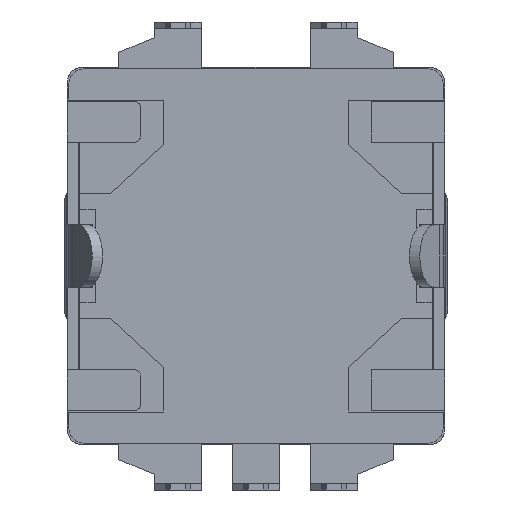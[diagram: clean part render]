
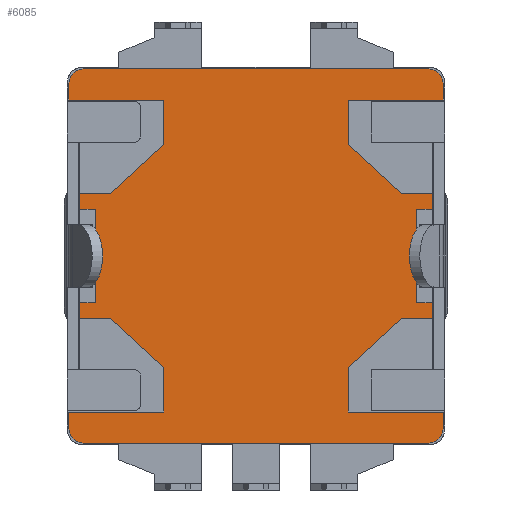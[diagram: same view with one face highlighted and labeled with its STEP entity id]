
A CAD part, front view. The second image highlights one B-rep face of the part: STEP entity #6085.
In plain terms, the highlighted planar face has unit normal (0, -1, 0).
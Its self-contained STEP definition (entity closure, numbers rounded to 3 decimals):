
#221=CIRCLE('',#6474,0.5);
#222=CIRCLE('',#6475,0.5);
#223=CIRCLE('',#6476,0.5);
#224=CIRCLE('',#6477,0.5);
#404=FACE_OUTER_BOUND('',#716,.T.);
#716=EDGE_LOOP('',(#4664,#4665,#4666,#4667,#4668,#4669,#4670,#4671,#4672,
#4673,#4674,#4675,#4676,#4677,#4678,#4679,#4680,#4681,#4682,#4683,#4684,
#4685,#4686,#4687,#4688,#4689,#4690,#4691,#4692,#4693,#4694,#4695,#4696,
#4697,#4698,#4699));
#1156=LINE('',#9630,#1872);
#1164=LINE('',#9646,#1880);
#1198=LINE('',#9714,#1914);
#1200=LINE('',#9719,#1916);
#1206=LINE('',#9732,#1922);
#1209=LINE('',#9737,#1925);
#1216=LINE('',#9750,#1932);
#1374=LINE('',#10100,#2090);
#1380=LINE('',#10110,#2096);
#1407=LINE('',#10164,#2123);
#1408=LINE('',#10168,#2124);
#1409=LINE('',#10170,#2125);
#1410=LINE('',#10172,#2126);
#1411=LINE('',#10174,#2127);
#1412=LINE('',#10175,#2128);
#1413=LINE('',#10177,#2129);
#1414=LINE('',#10179,#2130);
#1415=LINE('',#10180,#2131);
#1416=LINE('',#10182,#2132);
#1417=LINE('',#10184,#2133);
#1418=LINE('',#10185,#2134);
#1419=LINE('',#10189,#2135);
#1420=LINE('',#10191,#2136);
#1421=LINE('',#10192,#2137);
#1422=LINE('',#10194,#2138);
#1423=LINE('',#10196,#2139);
#1424=LINE('',#10197,#2140);
#1425=LINE('',#10199,#2141);
#1426=LINE('',#10201,#2142);
#1427=LINE('',#10203,#2143);
#1428=LINE('',#10205,#2144);
#1429=LINE('',#10207,#2145);
#1872=VECTOR('',#7233,1000.);
#1880=VECTOR('',#7241,1000.);
#1914=VECTOR('',#7293,1000.);
#1916=VECTOR('',#7297,1000.);
#1922=VECTOR('',#7305,1000.);
#1925=VECTOR('',#7310,1000.);
#1932=VECTOR('',#7319,1000.);
#2090=VECTOR('',#7569,1000.);
#2096=VECTOR('',#7575,1000.);
#2123=VECTOR('',#7616,1000.);
#2124=VECTOR('',#7619,1000.);
#2125=VECTOR('',#7620,1000.);
#2126=VECTOR('',#7621,1000.);
#2127=VECTOR('',#7622,1000.);
#2128=VECTOR('',#7623,1000.);
#2129=VECTOR('',#7624,1000.);
#2130=VECTOR('',#7625,1000.);
#2131=VECTOR('',#7626,1000.);
#2132=VECTOR('',#7627,1000.);
#2133=VECTOR('',#7628,1000.);
#2134=VECTOR('',#7629,1000.);
#2135=VECTOR('',#7634,1000.);
#2136=VECTOR('',#7635,1000.);
#2137=VECTOR('',#7636,1000.);
#2138=VECTOR('',#7637,1000.);
#2139=VECTOR('',#7638,1000.);
#2140=VECTOR('',#7639,1000.);
#2141=VECTOR('',#7640,1000.);
#2142=VECTOR('',#7641,1000.);
#2143=VECTOR('',#7642,1000.);
#2144=VECTOR('',#7643,1000.);
#2145=VECTOR('',#7644,1000.);
#2565=VERTEX_POINT('',#9627);
#2566=VERTEX_POINT('',#9629);
#2573=VERTEX_POINT('',#9643);
#2574=VERTEX_POINT('',#9645);
#2598=VERTEX_POINT('',#9711);
#2599=VERTEX_POINT('',#9713);
#2600=VERTEX_POINT('',#9717);
#2601=VERTEX_POINT('',#9718);
#2606=VERTEX_POINT('',#9729);
#2607=VERTEX_POINT('',#9731);
#2608=VERTEX_POINT('',#9736);
#2613=VERTEX_POINT('',#9748);
#2758=VERTEX_POINT('',#10097);
#2759=VERTEX_POINT('',#10099);
#2762=VERTEX_POINT('',#10107);
#2763=VERTEX_POINT('',#10109);
#2782=VERTEX_POINT('',#10162);
#2783=VERTEX_POINT('',#10163);
#2784=VERTEX_POINT('',#10165);
#2785=VERTEX_POINT('',#10167);
#2786=VERTEX_POINT('',#10169);
#2787=VERTEX_POINT('',#10171);
#2788=VERTEX_POINT('',#10173);
#2789=VERTEX_POINT('',#10176);
#2790=VERTEX_POINT('',#10178);
#2791=VERTEX_POINT('',#10181);
#2792=VERTEX_POINT('',#10183);
#2793=VERTEX_POINT('',#10188);
#2794=VERTEX_POINT('',#10190);
#2795=VERTEX_POINT('',#10193);
#2796=VERTEX_POINT('',#10195);
#2797=VERTEX_POINT('',#10198);
#2798=VERTEX_POINT('',#10200);
#2799=VERTEX_POINT('',#10202);
#2800=VERTEX_POINT('',#10204);
#2801=VERTEX_POINT('',#10206);
#3219=EDGE_CURVE('',#2565,#2566,#1156,.T.);
#3227=EDGE_CURVE('',#2573,#2574,#1164,.T.);
#3261=EDGE_CURVE('',#2598,#2599,#1198,.T.);
#3263=EDGE_CURVE('',#2600,#2601,#1200,.T.);
#3269=EDGE_CURVE('',#2606,#2607,#1206,.T.);
#3272=EDGE_CURVE('',#2608,#2599,#1209,.T.);
#3279=EDGE_CURVE('',#2613,#2600,#1216,.T.);
#3460=EDGE_CURVE('',#2759,#2758,#1374,.T.);
#3466=EDGE_CURVE('',#2763,#2762,#1380,.T.);
#3495=EDGE_CURVE('',#2782,#2783,#1407,.T.);
#3496=EDGE_CURVE('',#2782,#2784,#221,.T.);
#3497=EDGE_CURVE('',#2785,#2784,#1408,.T.);
#3498=EDGE_CURVE('',#2786,#2785,#1409,.T.);
#3499=EDGE_CURVE('',#2786,#2787,#1410,.T.);
#3500=EDGE_CURVE('',#2787,#2788,#1411,.T.);
#3501=EDGE_CURVE('',#2788,#2574,#1412,.T.);
#3502=EDGE_CURVE('',#2573,#2789,#1413,.T.);
#3503=EDGE_CURVE('',#2789,#2790,#1414,.T.);
#3504=EDGE_CURVE('',#2790,#2566,#1415,.T.);
#3505=EDGE_CURVE('',#2791,#2565,#1416,.T.);
#3506=EDGE_CURVE('',#2792,#2791,#1417,.T.);
#3507=EDGE_CURVE('',#2608,#2792,#1418,.T.);
#3508=EDGE_CURVE('',#2598,#2607,#222,.T.);
#3509=EDGE_CURVE('',#2606,#2601,#223,.T.);
#3510=EDGE_CURVE('',#2613,#2793,#1419,.T.);
#3511=EDGE_CURVE('',#2793,#2794,#1420,.T.);
#3512=EDGE_CURVE('',#2794,#2763,#1421,.T.);
#3513=EDGE_CURVE('',#2795,#2762,#1422,.T.);
#3514=EDGE_CURVE('',#2796,#2795,#1423,.T.);
#3515=EDGE_CURVE('',#2759,#2796,#1424,.T.);
#3516=EDGE_CURVE('',#2797,#2758,#1425,.T.);
#3517=EDGE_CURVE('',#2798,#2797,#1426,.T.);
#3518=EDGE_CURVE('',#2799,#2798,#1427,.T.);
#3519=EDGE_CURVE('',#2799,#2800,#1428,.T.);
#3520=EDGE_CURVE('',#2801,#2800,#1429,.T.);
#3521=EDGE_CURVE('',#2801,#2783,#224,.T.);
#4664=ORIENTED_EDGE('',*,*,#3495,.F.);
#4665=ORIENTED_EDGE('',*,*,#3496,.T.);
#4666=ORIENTED_EDGE('',*,*,#3497,.F.);
#4667=ORIENTED_EDGE('',*,*,#3498,.F.);
#4668=ORIENTED_EDGE('',*,*,#3499,.T.);
#4669=ORIENTED_EDGE('',*,*,#3500,.T.);
#4670=ORIENTED_EDGE('',*,*,#3501,.T.);
#4671=ORIENTED_EDGE('',*,*,#3227,.F.);
#4672=ORIENTED_EDGE('',*,*,#3502,.T.);
#4673=ORIENTED_EDGE('',*,*,#3503,.T.);
#4674=ORIENTED_EDGE('',*,*,#3504,.T.);
#4675=ORIENTED_EDGE('',*,*,#3219,.F.);
#4676=ORIENTED_EDGE('',*,*,#3505,.F.);
#4677=ORIENTED_EDGE('',*,*,#3506,.F.);
#4678=ORIENTED_EDGE('',*,*,#3507,.F.);
#4679=ORIENTED_EDGE('',*,*,#3272,.T.);
#4680=ORIENTED_EDGE('',*,*,#3261,.F.);
#4681=ORIENTED_EDGE('',*,*,#3508,.T.);
#4682=ORIENTED_EDGE('',*,*,#3269,.F.);
#4683=ORIENTED_EDGE('',*,*,#3509,.T.);
#4684=ORIENTED_EDGE('',*,*,#3263,.F.);
#4685=ORIENTED_EDGE('',*,*,#3279,.F.);
#4686=ORIENTED_EDGE('',*,*,#3510,.T.);
#4687=ORIENTED_EDGE('',*,*,#3511,.T.);
#4688=ORIENTED_EDGE('',*,*,#3512,.T.);
#4689=ORIENTED_EDGE('',*,*,#3466,.T.);
#4690=ORIENTED_EDGE('',*,*,#3513,.F.);
#4691=ORIENTED_EDGE('',*,*,#3514,.F.);
#4692=ORIENTED_EDGE('',*,*,#3515,.F.);
#4693=ORIENTED_EDGE('',*,*,#3460,.T.);
#4694=ORIENTED_EDGE('',*,*,#3516,.F.);
#4695=ORIENTED_EDGE('',*,*,#3517,.F.);
#4696=ORIENTED_EDGE('',*,*,#3518,.F.);
#4697=ORIENTED_EDGE('',*,*,#3519,.T.);
#4698=ORIENTED_EDGE('',*,*,#3520,.F.);
#4699=ORIENTED_EDGE('',*,*,#3521,.T.);
#5585=PLANE('',#6473);
#6085=ADVANCED_FACE('',(#404),#5585,.F.);
#6473=AXIS2_PLACEMENT_3D('',#10161,#7614,#7615);
#6474=AXIS2_PLACEMENT_3D('',#10166,#7617,#7618);
#6475=AXIS2_PLACEMENT_3D('',#10186,#7630,#7631);
#6476=AXIS2_PLACEMENT_3D('',#10187,#7632,#7633);
#6477=AXIS2_PLACEMENT_3D('',#10208,#7645,#7646);
#7233=DIRECTION('',(0.,0.,-1.));
#7241=DIRECTION('',(0.,0.,-1.));
#7293=DIRECTION('',(0.,0.,-1.));
#7297=DIRECTION('',(0.,0.,1.));
#7305=DIRECTION('',(1.,0.,0.));
#7310=DIRECTION('',(1.,0.,0.));
#7319=DIRECTION('',(-1.,0.,0.));
#7569=DIRECTION('',(0.,0.,-1.));
#7575=DIRECTION('',(0.,0.,-1.));
#7614=DIRECTION('center_axis',(0.,1.,0.));
#7615=DIRECTION('ref_axis',(0.,0.,1.));
#7616=DIRECTION('',(-1.,0.,0.));
#7617=DIRECTION('center_axis',(0.,-1.,0.));
#7618=DIRECTION('ref_axis',(0.,0.,1.));
#7619=DIRECTION('',(0.,0.,-1.));
#7620=DIRECTION('',(1.,0.,0.));
#7621=DIRECTION('',(0.,0.,1.));
#7622=DIRECTION('',(0.734,0.,0.679));
#7623=DIRECTION('',(1.,0.,0.));
#7624=DIRECTION('',(-1.,0.,0.));
#7625=DIRECTION('',(0.,0.,1.));
#7626=DIRECTION('',(1.,0.,0.));
#7627=DIRECTION('',(1.,0.,0.));
#7628=DIRECTION('',(0.734,0.,-0.679));
#7629=DIRECTION('',(0.,0.,-1.));
#7630=DIRECTION('center_axis',(0.,-1.,0.));
#7631=DIRECTION('ref_axis',(0.,0.,1.));
#7632=DIRECTION('center_axis',(0.,-1.,0.));
#7633=DIRECTION('ref_axis',(0.,0.,1.));
#7634=DIRECTION('',(0.,0.,-1.));
#7635=DIRECTION('',(-0.734,0.,-0.679));
#7636=DIRECTION('',(-1.,0.,0.));
#7637=DIRECTION('',(-1.,0.,0.));
#7638=DIRECTION('',(0.,0.,1.));
#7639=DIRECTION('',(1.,0.,0.));
#7640=DIRECTION('',(-1.,0.,0.));
#7641=DIRECTION('',(-0.734,0.,0.679));
#7642=DIRECTION('',(0.,0.,1.));
#7643=DIRECTION('',(-1.,0.,0.));
#7644=DIRECTION('',(0.,0.,1.));
#7645=DIRECTION('center_axis',(0.,-1.,0.));
#7646=DIRECTION('ref_axis',(0.,0.,1.));
#9627=CARTESIAN_POINT('',(5.65,0.,2.));
#9629=CARTESIAN_POINT('',(5.65,0.,1.5));
#9630=CARTESIAN_POINT('',(5.65,0.,-5.));
#9643=CARTESIAN_POINT('',(5.65,0.,-1.5));
#9645=CARTESIAN_POINT('',(5.65,0.,-2.));
#9646=CARTESIAN_POINT('',(5.65,0.,-5.));
#9711=CARTESIAN_POINT('',(6.,0.,5.5));
#9713=CARTESIAN_POINT('',(6.,0.,5.));
#9714=CARTESIAN_POINT('',(6.,0.,-6.));
#9717=CARTESIAN_POINT('',(-6.,0.,5.));
#9718=CARTESIAN_POINT('',(-6.,0.,5.5));
#9719=CARTESIAN_POINT('',(-6.,0.,-6.));
#9729=CARTESIAN_POINT('',(-5.5,0.,6.));
#9731=CARTESIAN_POINT('',(5.5,0.,6.));
#9732=CARTESIAN_POINT('',(-6.,0.,6.));
#9736=CARTESIAN_POINT('',(2.95,0.,5.));
#9737=CARTESIAN_POINT('',(5.65,0.,5.));
#9748=CARTESIAN_POINT('',(-2.95,0.,5.));
#9750=CARTESIAN_POINT('',(-5.65,0.,5.));
#10097=CARTESIAN_POINT('',(-5.65,0.,-2.));
#10099=CARTESIAN_POINT('',(-5.65,0.,-1.5));
#10100=CARTESIAN_POINT('',(-5.65,0.,-5.));
#10107=CARTESIAN_POINT('',(-5.65,0.,1.5));
#10109=CARTESIAN_POINT('',(-5.65,0.,2.));
#10110=CARTESIAN_POINT('',(-5.65,0.,-5.));
#10161=CARTESIAN_POINT('Origin',(0.,0.,0.));
#10162=CARTESIAN_POINT('',(5.5,0.,-6.));
#10163=CARTESIAN_POINT('',(-5.5,0.,-6.));
#10164=CARTESIAN_POINT('',(-6.,0.,-6.));
#10165=CARTESIAN_POINT('',(6.,0.,-5.5));
#10166=CARTESIAN_POINT('Origin',(5.5,0.,-5.5));
#10167=CARTESIAN_POINT('',(6.,0.,-5.));
#10168=CARTESIAN_POINT('',(6.,0.,-6.));
#10169=CARTESIAN_POINT('',(2.95,0.,-5.));
#10170=CARTESIAN_POINT('',(5.65,0.,-5.));
#10171=CARTESIAN_POINT('',(2.95,0.,-3.572));
#10172=CARTESIAN_POINT('',(2.95,0.,0.));
#10173=CARTESIAN_POINT('',(4.65,0.,-2.));
#10174=CARTESIAN_POINT('',(3.14,0.,-3.396));
#10175=CARTESIAN_POINT('',(0.,0.,-2.));
#10176=CARTESIAN_POINT('',(5.15,0.,-1.5));
#10177=CARTESIAN_POINT('',(0.,0.,-1.5));
#10178=CARTESIAN_POINT('',(5.15,0.,1.5));
#10179=CARTESIAN_POINT('',(5.15,0.,0.));
#10180=CARTESIAN_POINT('',(0.,0.,1.5));
#10181=CARTESIAN_POINT('',(4.65,0.,2.));
#10182=CARTESIAN_POINT('',(0.,0.,2.));
#10183=CARTESIAN_POINT('',(2.95,0.,3.572));
#10184=CARTESIAN_POINT('',(3.14,0.,3.396));
#10185=CARTESIAN_POINT('',(2.95,0.,0.));
#10186=CARTESIAN_POINT('Origin',(5.5,0.,5.5));
#10187=CARTESIAN_POINT('Origin',(-5.5,0.,5.5));
#10188=CARTESIAN_POINT('',(-2.95,0.,3.572));
#10189=CARTESIAN_POINT('',(-2.95,0.,0.));
#10190=CARTESIAN_POINT('',(-4.65,0.,2.));
#10191=CARTESIAN_POINT('',(-3.14,0.,3.396));
#10192=CARTESIAN_POINT('',(0.,0.,2.));
#10193=CARTESIAN_POINT('',(-5.15,0.,1.5));
#10194=CARTESIAN_POINT('',(0.,0.,1.5));
#10195=CARTESIAN_POINT('',(-5.15,0.,-1.5));
#10196=CARTESIAN_POINT('',(-5.15,0.,0.));
#10197=CARTESIAN_POINT('',(0.,0.,-1.5));
#10198=CARTESIAN_POINT('',(-4.65,0.,-2.));
#10199=CARTESIAN_POINT('',(0.,0.,-2.));
#10200=CARTESIAN_POINT('',(-2.95,0.,-3.572));
#10201=CARTESIAN_POINT('',(-3.14,0.,-3.396));
#10202=CARTESIAN_POINT('',(-2.95,0.,-5.));
#10203=CARTESIAN_POINT('',(-2.95,0.,0.));
#10204=CARTESIAN_POINT('',(-6.,0.,-5.));
#10205=CARTESIAN_POINT('',(-5.65,0.,-5.));
#10206=CARTESIAN_POINT('',(-6.,0.,-5.5));
#10207=CARTESIAN_POINT('',(-6.,0.,-6.));
#10208=CARTESIAN_POINT('Origin',(-5.5,0.,-5.5));
